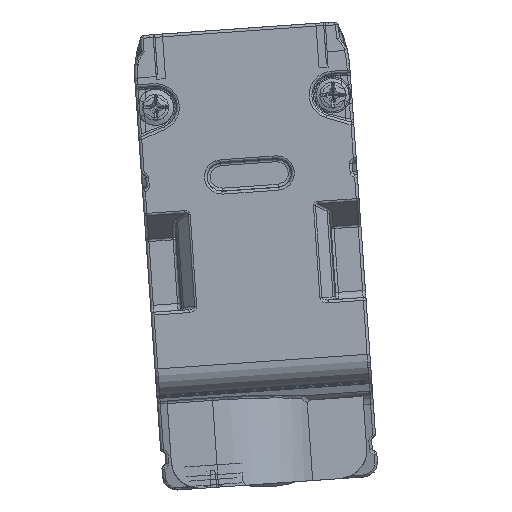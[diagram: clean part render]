
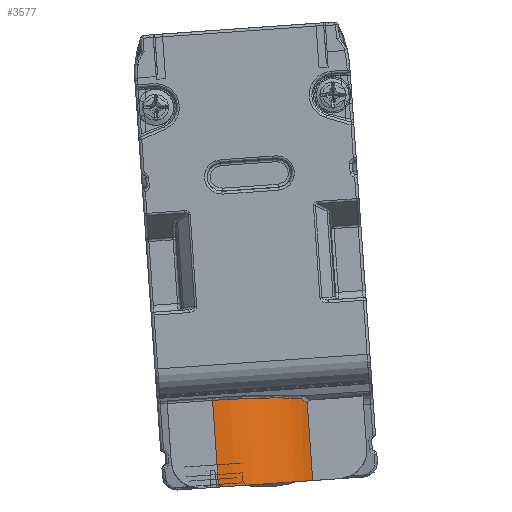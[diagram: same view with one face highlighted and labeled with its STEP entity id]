
A CAD part, front view. The second image highlights one B-rep face of the part: STEP entity #3577.
In plain terms, the highlighted cylindrical face has radius 7.5 mm (diameter 15 mm), a partial arc.
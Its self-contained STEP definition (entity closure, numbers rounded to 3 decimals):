
#268=ELLIPSE('',#21806,7.53,7.5);
#507=B_SPLINE_CURVE_WITH_KNOTS('',3,(#36427,#36428,#36429,#36430,#36431,
#36432,#36433),.UNSPECIFIED.,.F.,.F.,(4,3,4),(0.,0.485,1.),.UNSPECIFIED.);
#1297=CYLINDRICAL_SURFACE('',#21808,7.5);
#2386=CIRCLE('',#21807,7.5);
#3577=ADVANCED_FACE('',(#4767),#1297,.T.);
#4767=FACE_OUTER_BOUND('',#5783,.T.);
#5783=EDGE_LOOP('',(#9063,#9064,#9065,#9066,#9067));
#9063=ORIENTED_EDGE('',*,*,#15805,.T.);
#9064=ORIENTED_EDGE('',*,*,#15806,.T.);
#9065=ORIENTED_EDGE('',*,*,#15807,.T.);
#9066=ORIENTED_EDGE('',*,*,#15808,.T.);
#9067=ORIENTED_EDGE('',*,*,#15809,.F.);
#12884=VERTEX_POINT('',#36425);
#12885=VERTEX_POINT('',#36426);
#12886=VERTEX_POINT('',#36434);
#12887=VERTEX_POINT('',#36436);
#12888=VERTEX_POINT('',#36438);
#15805=EDGE_CURVE('',#12884,#12885,#18188,.T.);
#15806=EDGE_CURVE('',#12885,#12886,#507,.T.);
#15807=EDGE_CURVE('',#12886,#12887,#268,.T.);
#15808=EDGE_CURVE('',#12887,#12888,#18189,.T.);
#15809=EDGE_CURVE('',#12884,#12888,#2386,.T.);
#18188=LINE('',#36424,#19725);
#18189=LINE('',#36437,#19726);
#19725=VECTOR('',#26249,1.);
#19726=VECTOR('',#26252,1.);
#21806=AXIS2_PLACEMENT_3D('',#36435,#26250,#26251);
#21807=AXIS2_PLACEMENT_3D('',#36439,#26253,#26254);
#21808=AXIS2_PLACEMENT_3D('',#36440,#26255,#26256);
#26249=DIRECTION('',(-0.07,0.,0.998));
#26250=DIRECTION('',(0.069,-0.089,-0.994));
#26251=DIRECTION('',(0.006,0.996,-0.089));
#26252=DIRECTION('',(0.07,0.,-0.998));
#26253=DIRECTION('',(0.07,0.,-0.998));
#26254=DIRECTION('',(0.998,0.,0.07));
#26255=DIRECTION('',(0.07,0.,-0.998));
#26256=DIRECTION('',(0.,-1.,0.));
#36424=CARTESIAN_POINT('',(-40.701,-1040.597,14.888));
#36425=CARTESIAN_POINT('',(-40.701,-1040.597,14.888));
#36426=CARTESIAN_POINT('',(-41.088,-1040.597,20.435));
#36427=CARTESIAN_POINT('',(-41.088,-1040.597,20.435));
#36428=CARTESIAN_POINT('',(-41.139,-1040.686,20.528));
#36429=CARTESIAN_POINT('',(-41.198,-1040.793,20.603));
#36430=CARTESIAN_POINT('',(-41.263,-1040.905,20.654));
#36431=CARTESIAN_POINT('',(-41.332,-1041.024,20.708));
#36432=CARTESIAN_POINT('',(-41.408,-1041.152,20.738));
#36433=CARTESIAN_POINT('',(-41.487,-1041.278,20.743));
#36434=CARTESIAN_POINT('',(-41.487,-1041.278,20.743));
#36435=CARTESIAN_POINT('',(-47.816,-1037.318,19.944));
#36436=CARTESIAN_POINT('',(-47.863,-1044.818,20.616));
#36437=CARTESIAN_POINT('',(-47.667,-1044.818,17.815));
#36438=CARTESIAN_POINT('',(-47.43,-1044.818,14.418));
#36439=CARTESIAN_POINT('',(-47.43,-1037.318,14.418));
#36440=CARTESIAN_POINT('',(-52.434,-1037.318,85.982));
